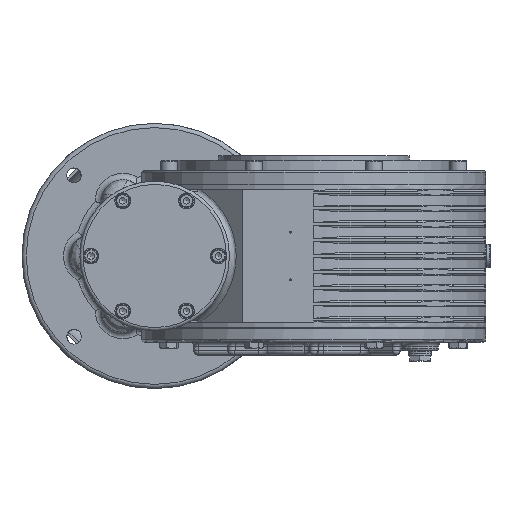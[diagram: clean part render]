
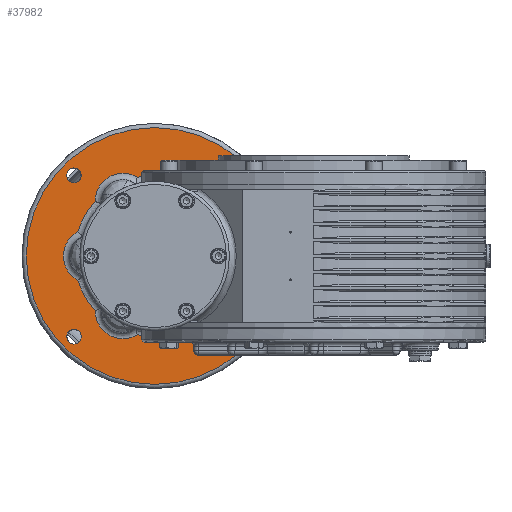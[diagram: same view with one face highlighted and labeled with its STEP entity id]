
A CAD part, left-side view. The second image highlights one B-rep face of the part: STEP entity #37982.
In plain terms, the highlighted planar face has unit normal (-1, 0, 0) as drawn and (1, 0, 0) by its records, which use the part's own axes.
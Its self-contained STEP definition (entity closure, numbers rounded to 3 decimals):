
#37808=CARTESIAN_POINT('',(15.0,121.0,0.));
#37809=VERTEX_POINT('',#37808);
#37810=CARTESIAN_POINT('',(15.0,0.0,0.0));
#37811=DIRECTION('',(-1.0,0.0,0.0));
#37812=DIRECTION('',(0.0,-1.0,0.0));
#37813=AXIS2_PLACEMENT_3D('',#37810,#37811,#37812);
#37814=CIRCLE('',#37813,121.0);
#37815=EDGE_CURVE('',#37809,#37809,#37814,.T.);
#37820=CARTESIAN_POINT('',(15.0,97.5,0.0));
#37821=DIRECTION('',(1.0,0.0,0.0));
#37822=DIRECTION('',(0.0,0.0,-1.0));
#37823=AXIS2_PLACEMENT_3D('',#37820,#37821,#37822);
#37824=PLANE('',#37823);
#37825=ORIENTED_EDGE('',*,*,#37815,.F.);
#37826=EDGE_LOOP('',(#37825));
#37827=FACE_OUTER_BOUND('',#37826,.T.);
#37828=CARTESIAN_POINT('',(15.0,16.506,74.186));
#37829=VERTEX_POINT('',#37828);
#37830=CARTESIAN_POINT('',(15.0,-16.506,74.186));
#37831=VERTEX_POINT('',#37830);
#37832=CARTESIAN_POINT('',(15.0,0.0,0.0));
#37833=DIRECTION('',(1.0,0.0,0.0));
#37834=DIRECTION('',(0.0,0.0,1.0));
#37835=AXIS2_PLACEMENT_3D('',#37832,#37833,#37834);
#37836=CIRCLE('',#37835,76.0);
#37837=EDGE_CURVE('',#37829,#37831,#37836,.T.);
#37838=ORIENTED_EDGE('',*,*,#37837,.F.);
#37839=CARTESIAN_POINT('',(15.0,55.994,51.388));
#37840=VERTEX_POINT('',#37839);
#37841=CARTESIAN_POINT('',(15.0,30.,51.962));
#37842=DIRECTION('',(1.0,0.0,0.0));
#37843=DIRECTION('',(0.0,0.5,0.866));
#37844=AXIS2_PLACEMENT_3D('',#37841,#37842,#37843);
#37845=CIRCLE('',#37844,26.);
#37846=EDGE_CURVE('',#37840,#37829,#37845,.T.);
#37847=ORIENTED_EDGE('',*,*,#37846,.F.);
#37848=CARTESIAN_POINT('',(15.0,72.5,22.798));
#37849=VERTEX_POINT('',#37848);
#37850=CARTESIAN_POINT('',(15.0,0.0,0.0));
#37851=DIRECTION('',(1.0,0.0,0.0));
#37852=DIRECTION('',(0.0,0.866,0.5));
#37853=AXIS2_PLACEMENT_3D('',#37850,#37851,#37852);
#37854=CIRCLE('',#37853,76.0);
#37855=EDGE_CURVE('',#37849,#37840,#37854,.T.);
#37856=ORIENTED_EDGE('',*,*,#37855,.F.);
#37857=CARTESIAN_POINT('',(15.0,72.5,-22.798));
#37858=VERTEX_POINT('',#37857);
#37859=CARTESIAN_POINT('',(15.0,60.0,0.));
#37860=DIRECTION('',(1.0,0.0,0.0));
#37861=DIRECTION('',(0.0,1.0,0.0));
#37862=AXIS2_PLACEMENT_3D('',#37859,#37860,#37861);
#37863=CIRCLE('',#37862,26.);
#37864=EDGE_CURVE('',#37858,#37849,#37863,.T.);
#37865=ORIENTED_EDGE('',*,*,#37864,.F.);
#37866=CARTESIAN_POINT('',(15.0,55.994,-51.388));
#37867=VERTEX_POINT('',#37866);
#37868=CARTESIAN_POINT('',(15.0,0.0,0.0));
#37869=DIRECTION('',(1.0,0.0,0.0));
#37870=DIRECTION('',(0.0,0.866,-0.5));
#37871=AXIS2_PLACEMENT_3D('',#37868,#37869,#37870);
#37872=CIRCLE('',#37871,76.);
#37873=EDGE_CURVE('',#37867,#37858,#37872,.T.);
#37874=ORIENTED_EDGE('',*,*,#37873,.F.);
#37875=CARTESIAN_POINT('',(15.0,16.506,-74.186));
#37876=VERTEX_POINT('',#37875);
#37877=CARTESIAN_POINT('',(15.0,30.,-51.962));
#37878=DIRECTION('',(1.0,0.0,0.0));
#37879=DIRECTION('',(0.0,0.5,-0.866));
#37880=AXIS2_PLACEMENT_3D('',#37877,#37878,#37879);
#37881=CIRCLE('',#37880,26.);
#37882=EDGE_CURVE('',#37876,#37867,#37881,.T.);
#37883=ORIENTED_EDGE('',*,*,#37882,.F.);
#37884=CARTESIAN_POINT('',(15.0,-16.506,-74.186));
#37885=VERTEX_POINT('',#37884);
#37886=CARTESIAN_POINT('',(15.0,0.0,0.0));
#37887=DIRECTION('',(1.0,0.0,0.0));
#37888=DIRECTION('',(0.0,0.0,-1.0));
#37889=AXIS2_PLACEMENT_3D('',#37886,#37887,#37888);
#37890=CIRCLE('',#37889,76.0);
#37891=EDGE_CURVE('',#37885,#37876,#37890,.T.);
#37892=ORIENTED_EDGE('',*,*,#37891,.F.);
#37893=CARTESIAN_POINT('',(15.0,-55.994,-51.388));
#37894=VERTEX_POINT('',#37893);
#37895=CARTESIAN_POINT('',(15.0,-30.,-51.962));
#37896=DIRECTION('',(1.0,0.0,0.0));
#37897=DIRECTION('',(0.0,-0.5,-0.866));
#37898=AXIS2_PLACEMENT_3D('',#37895,#37896,#37897);
#37899=CIRCLE('',#37898,26.0);
#37900=EDGE_CURVE('',#37894,#37885,#37899,.T.);
#37901=ORIENTED_EDGE('',*,*,#37900,.F.);
#37902=CARTESIAN_POINT('',(15.0,-72.5,-22.798));
#37903=VERTEX_POINT('',#37902);
#37904=CARTESIAN_POINT('',(15.0,0.0,0.0));
#37905=DIRECTION('',(1.0,0.0,0.0));
#37906=DIRECTION('',(0.0,-0.866,-0.5));
#37907=AXIS2_PLACEMENT_3D('',#37904,#37905,#37906);
#37908=CIRCLE('',#37907,76.);
#37909=EDGE_CURVE('',#37903,#37894,#37908,.T.);
#37910=ORIENTED_EDGE('',*,*,#37909,.F.);
#37911=CARTESIAN_POINT('',(15.0,-72.5,22.798));
#37912=VERTEX_POINT('',#37911);
#37913=CARTESIAN_POINT('',(15.0,-60.0,0.));
#37914=DIRECTION('',(1.0,0.0,0.0));
#37915=DIRECTION('',(0.0,-1.0,0.0));
#37916=AXIS2_PLACEMENT_3D('',#37913,#37914,#37915);
#37917=CIRCLE('',#37916,26.0);
#37918=EDGE_CURVE('',#37912,#37903,#37917,.T.);
#37919=ORIENTED_EDGE('',*,*,#37918,.F.);
#37920=CARTESIAN_POINT('',(15.0,-55.994,51.388));
#37921=VERTEX_POINT('',#37920);
#37922=CARTESIAN_POINT('',(15.0,0.0,0.0));
#37923=DIRECTION('',(1.0,0.0,0.0));
#37924=DIRECTION('',(0.0,-0.866,0.5));
#37925=AXIS2_PLACEMENT_3D('',#37922,#37923,#37924);
#37926=CIRCLE('',#37925,76.);
#37927=EDGE_CURVE('',#37921,#37912,#37926,.T.);
#37928=ORIENTED_EDGE('',*,*,#37927,.F.);
#37929=CARTESIAN_POINT('',(15.0,-30.,51.962));
#37930=DIRECTION('',(1.0,0.0,0.0));
#37931=DIRECTION('',(0.0,-0.5,0.866));
#37932=AXIS2_PLACEMENT_3D('',#37929,#37930,#37931);
#37933=CIRCLE('',#37932,26.);
#37934=EDGE_CURVE('',#37831,#37921,#37933,.T.);
#37935=ORIENTED_EDGE('',*,*,#37934,.F.);
#37936=EDGE_LOOP('',(#37838,#37847,#37856,#37865,#37874,#37883,#37892,#37901,#37910,#37919,#37928,#37935));
#37937=FACE_BOUND('',#37936,.T.);
#37938=CARTESIAN_POINT('',(15.0,76.014,69.014));
#37939=VERTEX_POINT('',#37938);
#37940=CARTESIAN_POINT('',(15.0,76.014,76.014));
#37941=DIRECTION('',(-1.0,0.0,0.0));
#37942=DIRECTION('',(0.0,0.0,1.0));
#37943=AXIS2_PLACEMENT_3D('',#37940,#37941,#37942);
#37944=CIRCLE('',#37943,7.);
#37945=EDGE_CURVE('',#37939,#37939,#37944,.T.);
#37946=ORIENTED_EDGE('',*,*,#37945,.T.);
#37947=EDGE_LOOP('',(#37946));
#37948=FACE_BOUND('',#37947,.T.);
#37949=CARTESIAN_POINT('',(15.0,-69.014,76.014));
#37950=VERTEX_POINT('',#37949);
#37951=CARTESIAN_POINT('',(15.0,-76.014,76.014));
#37952=DIRECTION('',(-1.0,0.0,0.0));
#37953=DIRECTION('',(0.0,-1.0,0.0));
#37954=AXIS2_PLACEMENT_3D('',#37951,#37952,#37953);
#37955=CIRCLE('',#37954,7.);
#37956=EDGE_CURVE('',#37950,#37950,#37955,.T.);
#37957=ORIENTED_EDGE('',*,*,#37956,.T.);
#37958=EDGE_LOOP('',(#37957));
#37959=FACE_BOUND('',#37958,.T.);
#37960=CARTESIAN_POINT('',(15.0,-76.014,-69.014));
#37961=VERTEX_POINT('',#37960);
#37962=CARTESIAN_POINT('',(15.0,-76.014,-76.014));
#37963=DIRECTION('',(-1.0,0.0,0.0));
#37964=DIRECTION('',(0.0,0.0,-1.0));
#37965=AXIS2_PLACEMENT_3D('',#37962,#37963,#37964);
#37966=CIRCLE('',#37965,7.);
#37967=EDGE_CURVE('',#37961,#37961,#37966,.T.);
#37968=ORIENTED_EDGE('',*,*,#37967,.T.);
#37969=EDGE_LOOP('',(#37968));
#37970=FACE_BOUND('',#37969,.T.);
#37971=CARTESIAN_POINT('',(15.0,69.014,-76.014));
#37972=VERTEX_POINT('',#37971);
#37973=CARTESIAN_POINT('',(15.0,76.014,-76.014));
#37974=DIRECTION('',(-1.0,0.0,0.0));
#37975=DIRECTION('',(0.0,1.0,0.0));
#37976=AXIS2_PLACEMENT_3D('',#37973,#37974,#37975);
#37977=CIRCLE('',#37976,7.);
#37978=EDGE_CURVE('',#37972,#37972,#37977,.T.);
#37979=ORIENTED_EDGE('',*,*,#37978,.T.);
#37980=EDGE_LOOP('',(#37979));
#37981=FACE_BOUND('',#37980,.T.);
#37982=ADVANCED_FACE('',(#37827,#37937,#37948,#37959,#37970,#37981),#37824,.T.);
